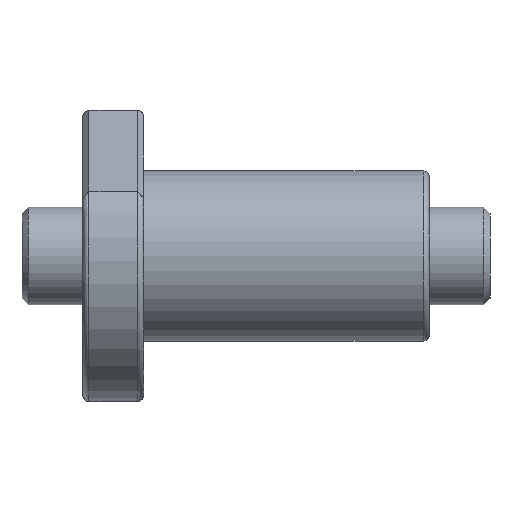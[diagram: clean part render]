
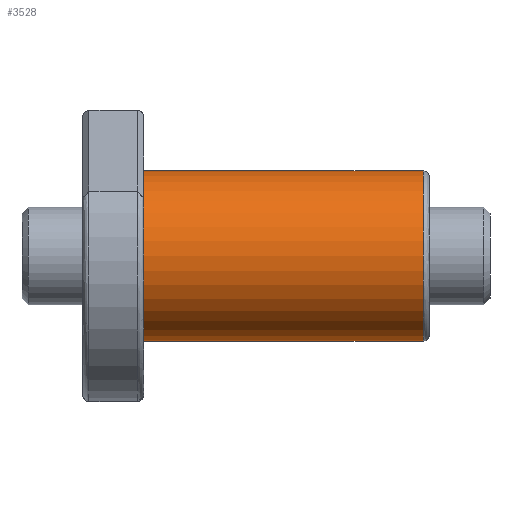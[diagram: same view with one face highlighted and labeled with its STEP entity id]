
A CAD part, front view. The second image highlights one B-rep face of the part: STEP entity #3528.
In plain terms, the highlighted cylindrical face has radius 14 mm (diameter 28 mm), a partial arc.
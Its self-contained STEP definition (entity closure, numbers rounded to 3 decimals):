
#481 = AXIS2_PLACEMENT_3D ( 'NONE', #1858, #4717, #2255 ) ;
#560 = CARTESIAN_POINT ( 'NONE',  ( 57., 0., 14. ) ) ;
#630 = ORIENTED_EDGE ( 'NONE', *, *, #3377, .F. ) ;
#703 = DIRECTION ( 'NONE',  ( -1., 0., 0. ) ) ;
#1157 = EDGE_CURVE ( 'NONE', #1459, #3218, #4834, .T. ) ;
#1201 = EDGE_CURVE ( 'NONE', #3218, #3594, #3723, .T. ) ;
#1459 = VERTEX_POINT ( 'NONE', #4948 ) ;
#1476 = CARTESIAN_POINT ( 'NONE',  ( 56., 0., 14. ) ) ;
#1827 = CARTESIAN_POINT ( 'NONE',  ( 10., 0., 14. ) ) ;
#1858 = CARTESIAN_POINT ( 'NONE',  ( 10., 0., 0. ) ) ;
#1913 = AXIS2_PLACEMENT_3D ( 'NONE', #5125, #3047, #3460 ) ;
#1964 = CARTESIAN_POINT ( 'NONE',  ( 57., 0., -14. ) ) ;
#1990 = ORIENTED_EDGE ( 'NONE', *, *, #3834, .T. ) ;
#2030 = CARTESIAN_POINT ( 'NONE',  ( 10., 0., -14. ) ) ;
#2207 = LINE ( 'NONE', #1964, #4102 ) ;
#2255 = DIRECTION ( 'NONE',  ( 0., 0., 1. ) ) ;
#2482 = FACE_OUTER_BOUND ( 'NONE', #5248, .T. ) ;
#2727 = CIRCLE ( 'NONE', #481, 14. ) ;
#2729 = DIRECTION ( 'NONE',  ( 0., 0., 1. ) ) ;
#3047 = DIRECTION ( 'NONE',  ( -1., 0., 0. ) ) ;
#3194 = CARTESIAN_POINT ( 'NONE',  ( 56., 0., 0. ) ) ;
#3218 = VERTEX_POINT ( 'NONE', #1476 ) ;
#3377 = EDGE_CURVE ( 'NONE', #1459, #4059, #2207, .T. ) ;
#3460 = DIRECTION ( 'NONE',  ( 0., 0., 1. ) ) ;
#3528 = ADVANCED_FACE ( 'NONE', ( #2482 ), #4287, .T. ) ;
#3594 = VERTEX_POINT ( 'NONE', #1827 ) ;
#3663 = VECTOR ( 'NONE', #5110, 1000. ) ;
#3723 = LINE ( 'NONE', #560, #3663 ) ;
#3748 = AXIS2_PLACEMENT_3D ( 'NONE', #3194, #703, #2729 ) ;
#3834 = EDGE_CURVE ( 'NONE', #3594, #4059, #2727, .T. ) ;
#4059 = VERTEX_POINT ( 'NONE', #2030 ) ;
#4102 = VECTOR ( 'NONE', #5338, 1000. ) ;
#4287 = CYLINDRICAL_SURFACE ( 'NONE', #1913, 14. ) ;
#4606 = ORIENTED_EDGE ( 'NONE', *, *, #1157, .T. ) ;
#4717 = DIRECTION ( 'NONE',  ( 1., 0., 0. ) ) ;
#4762 = ORIENTED_EDGE ( 'NONE', *, *, #1201, .T. ) ;
#4834 = CIRCLE ( 'NONE', #3748, 14. ) ;
#4948 = CARTESIAN_POINT ( 'NONE',  ( 56., 0., -14. ) ) ;
#5110 = DIRECTION ( 'NONE',  ( -1., 0., 0. ) ) ;
#5125 = CARTESIAN_POINT ( 'NONE',  ( 57., 0., 0. ) ) ;
#5248 = EDGE_LOOP ( 'NONE', ( #630, #4606, #4762, #1990 ) ) ;
#5338 = DIRECTION ( 'NONE',  ( -1., 0., 0. ) ) ;
